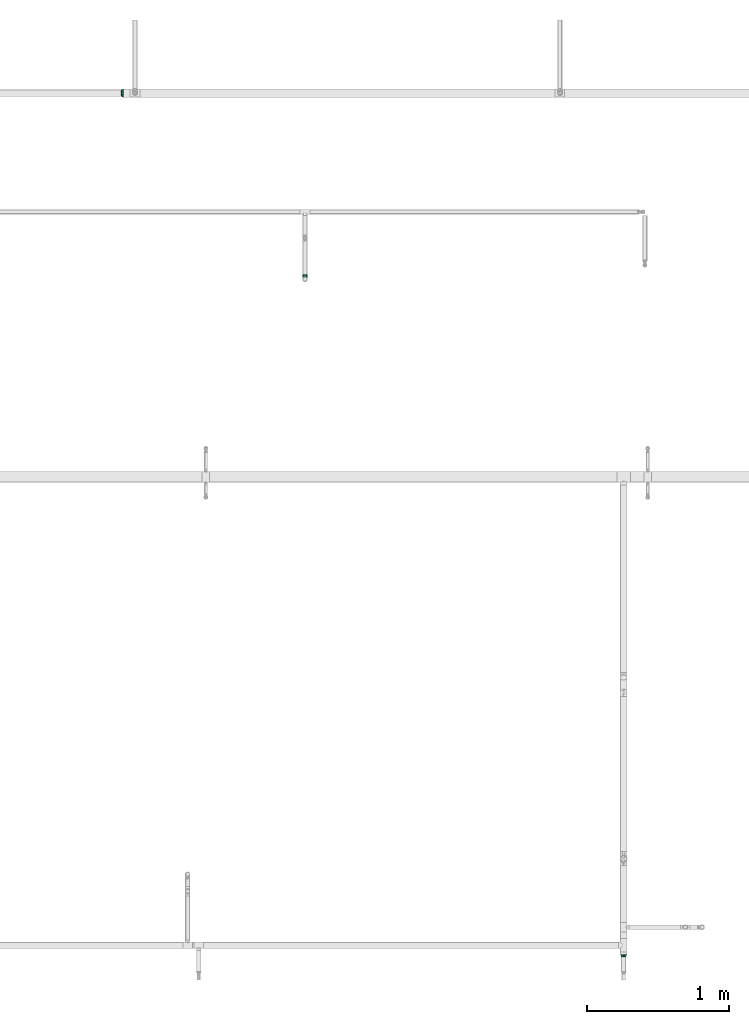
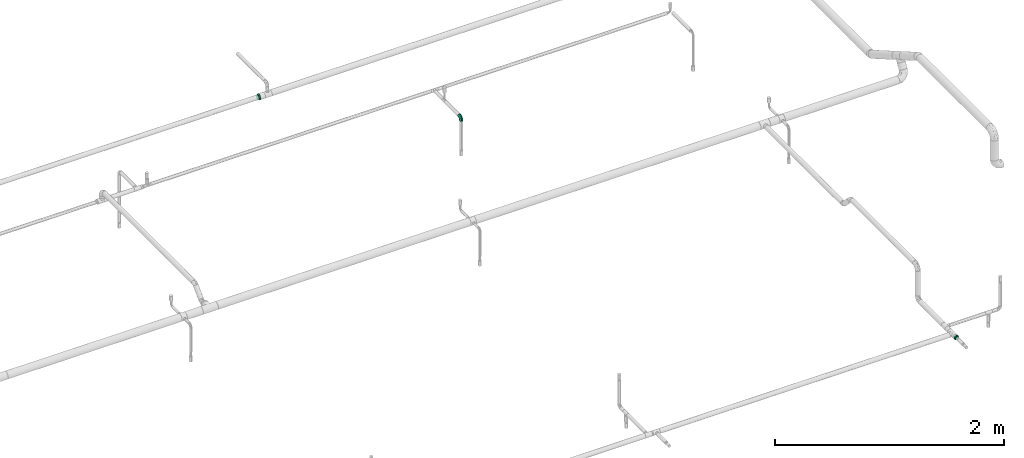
# One storey, part 50 of 51: 3 flow fittings.
"""IFC2X3 building model written with IfcOpenShell, lengths in millimetres."""

from ifc_helpers import new_model, entity, si_unit, converted_unit, derived_unit, direction, frame, origin_with_axes, place, context, subcontext, project, spatial, open_shell, surface_model, source, transform, mapped, type_object, element, save


model = new_model("IFC2X3")

# Units and contexts
model_context = context("Model", 3, precision=0.01, world=frame((0.0, 4.29681676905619e-09, 0.0)), true_north=direction((4.01073788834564e-13, 1.0)))
plan_context = context("Plan", 3, precision=0.01, world=frame((0.0, 4.29681676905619e-09, 0.0)), true_north=direction((4.01073788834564e-13, 1.0)))
body_context = subcontext(model_context, "Body", "Model", "MODEL_VIEW")
ifc_project = project(units=[converted_unit("PLANEANGLEUNIT", "DEGREE", entity("IfcPositiveLengthMeasure", 0.0174532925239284), si_unit("PLANEANGLEUNIT", "RADIAN"), dimensions=[0, 0, 0, 0, 0, 0, 0]), si_unit("AREAUNIT", "SQUARE_METRE"), si_unit("LENGTHUNIT", "METRE", prefix="MILLI"), si_unit("MASSUNIT", "GRAM", prefix="KILO"), si_unit("POWERUNIT", "WATT"), si_unit("PRESSUREUNIT", "PASCAL"), si_unit("FORCEUNIT", "NEWTON", prefix="KILO"), si_unit("ELECTRICVOLTAGEUNIT", "VOLT"), si_unit("ELECTRICCURRENTUNIT", "AMPERE"), si_unit("THERMODYNAMICTEMPERATUREUNIT", "DEGREE_CELSIUS"), si_unit("TIMEUNIT", "SECOND"), si_unit("VOLUMEUNIT", "CUBIC_METRE"), derived_unit("LINEARVELOCITYUNIT", [(si_unit("LENGTHUNIT", "METRE"), 1), (si_unit("TIMEUNIT", "SECOND"), -1)]), derived_unit("VOLUMETRICFLOWRATEUNIT", [(si_unit("VOLUMEUNIT", "CUBIC_METRE"), 1), (si_unit("TIMEUNIT", "SECOND"), -1)]), derived_unit("THERMALTRANSMITTANCEUNIT", [(si_unit("POWERUNIT", "WATT"), 1), (si_unit("THERMODYNAMICTEMPERATUREUNIT", "KELVIN"), -1), (si_unit("AREAUNIT", "SQUARE_METRE"), -1)]), derived_unit("SOUNDPRESSUREUNIT", [(si_unit("PRESSUREUNIT", "PASCAL"), 1)])], contexts=[model_context, plan_context])

# Site, building, storey
site_placement = place(None, frame((0.0, -4.29681676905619e-09, 0.0), z_axis=(0.0, 0.0, 1.0), x_axis=(1.0, 0.0, 0.0)))
site = spatial("IfcSite", under=ifc_project, at=site_placement, Name="ENGM", CompositionType="ELEMENT")
building_placement = place(site_placement, frame((0.0, 4.29681676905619e-09, 0.0), z_axis=(0.0, 0.0, 1.0), x_axis=(1.0, 0.0, 0.0)))
building = spatial("IfcBuilding", under=site, at=building_placement, Name="TH", CompositionType="ELEMENT")
storey_placement = place(building_placement, frame((0.0, 0.0, 210200.0), z_axis=(0.0, 0.0, 1.0), x_axis=(1.0, 0.0, 0.0)))
storey = spatial("IfcBuildingStorey", under=building, at=storey_placement, Name="Nivå F - 0,7 m", CompositionType="ELEMENT", Elevation=210200.0)

# Flow fittings
pipe_fitting_type_1 = type_object("IfcPipeFittingType", Name="magi_pipe_fe_reducer_centric_short_NOR", PredefinedType="TRANSITION")
shared_shape_1 = source(origin_with_axes(), body_context, "Body", "SurfaceModel", [
    surface_model("IfcShellBasedSurfaceModel", [(-2.0, 0.0, 24.2), (-2.0, 6.26342, 23.37541), (-2.0, 12.1, 20.95781), (-2.0, 17.11198, 17.11198), (-2.0, 24.2, 0.0), (-2.0, 20.95781, 12.1), (-2.0, -23.37541, 6.26342), (-2.0, -17.11198, -17.11198), (-2.0, -6.26342, 23.37541), (-2.0, -17.11198, 17.11198), (-2.0, -12.1, 20.95781), (-2.0, -20.95781, 12.1), (-2.0, -24.2, 0.0), (-2.0, 23.37541, 6.26342), (-2.0, 23.37541, -6.26342), (-2.0, 6.26342, -23.37541), (-2.0, 17.11198, -17.11198), (-2.0, 20.95781, -12.1), (-2.0, 12.1, -20.95781), (-2.0, -23.37541, -6.26342), (-2.0, -20.95781, -12.1), (-2.0, -6.26342, -23.37541), (-2.0, -12.1, -20.95781), (-2.0, 0.0, -24.2), (0.0, 24.2, 0.0), (0.0, 6.26342, -23.37541), (0.0, 12.1, -20.95781), (0.0, 23.37541, -6.26342), (0.0, 17.11198, -17.11198), (0.0, 20.95781, -12.1), (0.0, -24.2, 0.0), (0.0, -12.1, -20.95781), (0.0, -6.26342, -23.37541), (0.0, 0.0, -24.2), (0.0, -17.11198, -17.11198), (0.0, -23.37541, -6.26342), (0.0, -20.95781, -12.1), (0.0, 20.95781, 12.1), (0.0, 17.11198, 17.11198), (0.0, 12.1, 20.95781), (0.0, 6.26342, 23.37541), (0.0, 0.0, 24.2), (0.0, -23.37541, 6.26342), (0.0, -17.11198, 17.11198), (0.0, -20.95781, 12.1), (0.0, -6.26342, 23.37541), (0.0, -12.1, 20.95781), (0.0, 23.37541, 6.26342), (12.0, -30.2, 0.0), (12.0, -9.33231, 28.72191), (12.0, -24.43231, 17.75111), (12.0, 30.2, 0.0), (12.0, 24.43231, 17.75111), (12.0, 24.43231, -17.75111), (12.0, -24.43231, -17.75111), (0.0, -7.47821, 23.01557), (0.0, -19.57821, -14.2244), (0.0, -19.57821, 14.2244), (0.0, 7.47821, 23.01557), (0.0, 19.57821, 14.2244), (14.0, 15.1, -26.15397), (14.0, 15.1, 26.15397), (14.0, 7.81634, -29.17096), (14.0, 30.2, 0.0), (14.0, 21.35462, -21.35462), (14.0, 26.15397, -15.1), (14.0, 29.17096, -7.81634), (14.0, -15.1, -26.15397), (14.0, 0.0, -30.2), (14.0, -7.81634, -29.17096), (14.0, -21.35462, -21.35462), (14.0, -29.17096, -7.81634), (14.0, -26.15397, -15.1), (14.0, -29.17096, 7.81634), (14.0, 21.35462, 21.35462), (14.0, 29.17096, 7.81634), (14.0, 26.15397, 15.1), (14.0, 7.81634, 29.17096), (14.0, 0.0, 30.2), (14.0, -21.35462, 21.35462), (14.0, -7.81634, 29.17096), (14.0, -26.15397, 15.1), (14.0, -30.2, 0.0), (14.0, -15.1, 26.15397), (12.0, 0.0, 30.2), (12.0, 7.81634, 29.17096), (12.0, 15.1, 26.15397), (12.0, -29.17096, 7.81634), (12.0, 21.35462, 21.35462), (12.0, 26.15397, 15.1), (12.0, 29.17096, 7.81634), (12.0, 29.17096, -7.81634), (12.0, -7.81634, 29.17096), (12.0, -21.35462, 21.35462), (12.0, -15.1, 26.15397), (12.0, -26.15397, 15.1), (12.0, -29.17096, -7.81634), (12.0, 26.15397, -15.1), (12.0, 7.81634, -29.17096), (12.0, 21.35462, -21.35462), (12.0, 15.1, -26.15397), (12.0, -15.1, -26.15397), (12.0, -21.35462, -21.35462), (12.0, -26.15397, -15.1), (12.0, 0.0, -30.2), (12.0, -7.81634, -29.17096), (12.0, 9.33231, 28.72191), (12.0, -9.33231, -28.72191), (12.0, 9.33231, -28.72191), (0.0, 19.57821, -14.2244), (0.0, 7.47821, -23.01557), (0.0, -7.47821, -23.01557), (12.0, -27.31616, -8.87556), (0.0, -21.8891, -7.1122), (0.0, -13.52821, -18.61999), (12.0, -16.88231, -23.23651), (12.0, 0.0, -28.72191), (0.0, 0.0, -23.01557), (12.0, 27.31616, -8.87556), (12.0, 16.88231, -23.23651), (0.0, 13.52821, -18.61999), (0.0, 22.02177, -6.7039), (12.0, 27.31616, 8.87556), (0.0, 21.8891, 7.1122), (0.0, 13.52821, 18.61999), (12.0, 16.88231, 23.23651), (12.0, 0.0, 28.72191), (0.0, 0.0, 23.01557), (12.0, -27.31616, 8.87556), (12.0, -16.88231, 23.23651), (0.0, -13.52821, 18.61999), (0.0, -22.02177, 6.7039)], [open_shell([[[0, 1, 2]], [[0, 2, 3]], [[4, 3, 5]], [[6, 0, 7]], [[0, 3, 7]], [[8, 9, 10]], [[8, 0, 9]], [[9, 6, 11]], [[0, 6, 9]], [[6, 7, 12]], [[4, 5, 13]], [[3, 14, 15]], [[16, 14, 17]], [[18, 15, 14]], [[18, 14, 16]], [[15, 7, 3]], [[19, 7, 20]], [[12, 7, 19]], [[15, 21, 22]], [[22, 7, 15]], [[21, 15, 23]], [[14, 3, 4]], [[24, 25, 26]], [[27, 26, 28]], [[27, 24, 26]], [[27, 28, 29]], [[25, 30, 31]], [[25, 32, 33]], [[25, 31, 32]], [[34, 35, 36]], [[34, 31, 30]], [[34, 30, 35]], [[25, 24, 37]], [[37, 38, 25]], [[25, 38, 30]], [[39, 40, 41]], [[39, 41, 38]], [[30, 38, 41]], [[42, 43, 44]], [[45, 42, 30]], [[43, 45, 46]], [[45, 43, 42]], [[30, 41, 45]], [[24, 47, 37]], [[19, 35, 12]], [[20, 36, 19]], [[31, 7, 22]], [[20, 7, 34]], [[32, 22, 21]], [[19, 36, 35]], [[35, 30, 12]], [[32, 31, 22]], [[34, 7, 31]], [[34, 36, 20]], [[33, 32, 21]], [[21, 23, 33]], [[15, 25, 23]], [[18, 26, 15]], [[29, 16, 17]], [[18, 16, 28]], [[27, 17, 14]], [[18, 28, 26]], [[26, 25, 15]], [[24, 27, 14]], [[29, 17, 27]], [[29, 28, 16]], [[4, 24, 14]], [[23, 25, 33]], [[13, 47, 4]], [[5, 37, 13]], [[39, 3, 2]], [[5, 3, 38]], [[40, 2, 1]], [[13, 37, 47]], [[47, 24, 4]], [[40, 39, 2]], [[38, 3, 39]], [[38, 37, 5]], [[41, 40, 1]], [[1, 0, 41]], [[8, 45, 0]], [[10, 46, 8]], [[44, 9, 11]], [[10, 9, 43]], [[42, 11, 6]], [[10, 43, 46]], [[46, 45, 8]], [[30, 42, 6]], [[44, 11, 42]], [[44, 43, 9]], [[12, 30, 6]], [[0, 45, 41]], [[48, 49, 50]], [[51, 52, 53]], [[48, 54, 53]], [[55, 56, 57]], [[24, 58, 59]], [[60, 61, 62]], [[63, 60, 64]], [[65, 66, 63]], [[65, 63, 64]], [[67, 62, 61]], [[68, 67, 69]], [[68, 62, 67]], [[70, 71, 72]], [[71, 70, 67]], [[67, 73, 71]], [[63, 74, 60]], [[75, 76, 74]], [[74, 61, 60]], [[61, 77, 78]], [[67, 61, 79]], [[80, 61, 78]], [[73, 79, 81]], [[82, 71, 73]], [[79, 80, 83]], [[73, 67, 79]], [[80, 79, 61]], [[75, 74, 63]], [[84, 85, 86]], [[87, 84, 86]], [[88, 89, 90]], [[86, 88, 87]], [[88, 91, 87]], [[92, 93, 94]], [[92, 84, 93]], [[93, 87, 95]], [[84, 87, 93]], [[87, 96, 48]], [[51, 88, 90]], [[91, 97, 87]], [[97, 98, 87]], [[99, 100, 98]], [[99, 98, 97]], [[98, 101, 87]], [[96, 102, 103]], [[102, 96, 101]], [[101, 104, 105]], [[96, 87, 101]], [[98, 104, 101]], [[91, 88, 51]], [[96, 71, 48]], [[103, 72, 96]], [[67, 102, 101]], [[103, 102, 70]], [[69, 101, 105]], [[96, 72, 71]], [[71, 82, 48]], [[69, 67, 101]], [[70, 102, 67]], [[70, 72, 103]], [[68, 69, 105]], [[105, 104, 68]], [[98, 62, 104]], [[100, 60, 98]], [[65, 99, 97]], [[100, 99, 64]], [[66, 97, 91]], [[100, 64, 60]], [[60, 62, 98]], [[63, 66, 91]], [[65, 97, 66]], [[65, 64, 99]], [[51, 63, 91]], [[104, 62, 68]], [[90, 75, 51]], [[89, 76, 90]], [[61, 88, 86]], [[89, 88, 74]], [[77, 86, 85]], [[90, 76, 75]], [[75, 63, 51]], [[77, 61, 86]], [[74, 88, 61]], [[74, 76, 89]], [[78, 77, 85]], [[85, 84, 78]], [[92, 80, 84]], [[94, 83, 92]], [[81, 93, 95]], [[94, 93, 79]], [[73, 95, 87]], [[94, 79, 83]], [[83, 80, 92]], [[82, 73, 87]], [[81, 95, 73]], [[81, 79, 93]], [[48, 82, 87]], [[84, 80, 78]], [[48, 106, 49]], [[106, 53, 52]], [[53, 107, 108]], [[107, 53, 54]], [[48, 53, 106]], [[55, 58, 24]], [[57, 56, 30]], [[24, 109, 110]], [[56, 110, 111]], [[110, 56, 24]], [[24, 56, 55]], [[112, 30, 113]], [[113, 56, 54]], [[107, 114, 111]], [[30, 112, 48]], [[113, 54, 112]], [[115, 56, 114]], [[116, 107, 111]], [[117, 108, 116]], [[108, 117, 110]], [[56, 115, 54]], [[107, 115, 114]], [[109, 118, 53]], [[110, 119, 108]], [[120, 53, 119]], [[121, 51, 118]], [[119, 110, 120]], [[121, 24, 51]], [[120, 109, 53]], [[116, 111, 117]], [[118, 109, 121]], [[122, 24, 123]], [[123, 59, 52]], [[106, 124, 58]], [[24, 122, 51]], [[123, 52, 122]], [[125, 59, 124]], [[126, 106, 58]], [[127, 49, 126]], [[49, 127, 55]], [[59, 125, 52]], [[106, 125, 124]], [[57, 128, 50]], [[55, 129, 49]], [[130, 50, 129]], [[131, 48, 128]], [[129, 55, 130]], [[131, 30, 48]], [[130, 57, 50]], [[126, 58, 127]], [[128, 57, 131]]])]),
])
flow_fitting_1_placement = place(storey_placement, frame((905404.14183, 487040.10129, 2819.99995999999), z_axis=(0.0, 0.0, 1.0), x_axis=(1.0, 0.0, 0.0)))
element("IfcFlowFitting", 1, at=flow_fitting_1_placement, inside=storey, type_object=pipe_fitting_type_1, Name="magi_pipe_fe_reducer_centric_short_NOR", context=body_context, shape_type="MappedRepresentation", body=[
    mapped(shared_shape_1, transform((0.0, 0.0, 0.0), scale=1.0)),
])
shared_shape_2 = source(origin_with_axes(), body_context, "Body", "SurfaceModel", [
    surface_model("IfcShellBasedSurfaceModel", [(-2.0, 11.9501, 11.9501), (-2.0, 0.0, 16.9), (-2.0, 4.37404, 16.32415), (-2.0, 8.45, 14.63583), (-2.0, 14.63583, 8.45), (-2.0, 16.32415, 4.37404), (-2.0, -16.32415, 4.37404), (-2.0, -8.45, 14.63583), (-2.0, -14.63583, 8.45), (-2.0, -11.9501, 11.9501), (-2.0, -4.37404, 16.32415), (-2.0, -16.32415, -4.37404), (-2.0, -16.9, 0.0), (-2.0, -8.45, -14.63583), (-2.0, 16.32415, -4.37404), (-2.0, 11.9501, -11.9501), (-2.0, 14.63583, -8.45), (-2.0, 8.45, -14.63583), (-2.0, 4.37404, -16.32415), (-2.0, 0.0, -16.9), (-2.0, -11.9501, -11.9501), (-2.0, -14.63583, -8.45), (-2.0, -4.37404, -16.32415), (-2.0, 16.9, 0.0), (0.0, 4.37404, -16.32415), (0.0, 8.45, -14.63583), (0.0, 11.9501, -11.9501), (0.0, 0.0, -16.9), (0.0, 16.32415, -4.37404), (0.0, 16.32415, 4.37404), (0.0, 14.63583, -8.45), (0.0, -8.45, -14.63583), (0.0, -4.37404, -16.32415), (0.0, -11.9501, -11.9501), (0.0, -16.32415, -4.37404), (0.0, -14.63583, -8.45), (0.0, -16.32415, 4.37404), (0.0, 16.9, 0.0), (0.0, 14.63583, 8.45), (0.0, 11.9501, 11.9501), (0.0, 4.37404, 16.32415), (0.0, 8.45, 14.63583), (0.0, 0.0, 16.9), (0.0, -14.63583, 8.45), (0.0, -16.9, 0.0), (0.0, -8.45, 14.63583), (0.0, -11.9501, 11.9501), (0.0, -4.37404, 16.32415), (16.6, 12.1, -20.95781), (16.6, -24.2, 0.0), (16.6, 6.26342, -23.37541), (16.6, 23.37541, -6.26342), (16.6, 17.11198, -17.11198), (16.6, 20.95781, -12.1), (16.6, -17.11198, -17.11198), (16.6, -6.26342, -23.37541), (16.6, -12.1, -20.95781), (16.6, 0.0, -24.2), (16.6, -23.37541, -6.26342), (16.6, -20.95781, -12.1), (16.6, 24.2, 0.0), (16.6, 23.37541, 6.26342), (16.6, 20.95781, 12.1), (16.6, 17.11198, 17.11198), (16.6, 12.1, 20.95781), (16.6, 6.26342, 23.37541), (16.6, 0.0, 24.2), (16.6, -23.37541, 6.26342), (16.6, -17.11198, 17.11198), (16.6, -20.95781, 12.1), (16.6, -6.26342, 23.37541), (16.6, -12.1, 20.95781), (14.6, 0.0, 24.2), (14.6, 6.26342, 23.37541), (14.6, 12.1, 20.95781), (14.6, 17.11198, 17.11198), (14.6, 20.95781, 12.1), (14.6, 23.37541, 6.26342), (14.6, -23.37541, 6.26342), (14.6, -17.11198, -17.11198), (14.6, -6.26342, 23.37541), (14.6, -17.11198, 17.11198), (14.6, -12.1, 20.95781), (14.6, -20.95781, 12.1), (14.6, -24.2, 0.0), (14.6, 24.2, 0.0), (14.6, 17.11198, -17.11198), (14.6, 23.37541, -6.26342), (14.6, 20.95781, -12.1), (14.6, 12.1, -20.95781), (14.6, 6.26342, -23.37541), (14.6, -23.37541, -6.26342), (14.6, -20.95781, -12.1), (14.6, -6.26342, -23.37541), (14.6, -12.1, -20.95781), (14.6, 0.0, -24.2), (14.6, 7.47821, 23.01557), (14.6, -7.47821, 23.01557), (14.6, 19.57821, -14.2244), (14.6, 19.57821, 14.2244), (14.6, -19.57821, 14.2244), (14.6, -19.57821, -14.2244), (14.6, 7.47821, -23.01557), (14.6, -7.47821, -23.01557), (0.0, 13.18758, -8.96258), (0.0, -5.97505, -14.42505), (14.6, -13.52821, -18.61999), (0.0, 14.42505, -5.97505), (14.6, 21.8891, -7.1122), (14.6, 20.73366, -10.6683), (0.0, -8.96258, -13.18758), (0.0, -14.42505, -5.97505), (0.0, -13.18758, -8.96258), (14.6, 0.0, -23.01557), (0.0, -2.98753, -15.66253), (14.6, 13.52821, -18.61999), (0.0, -15.66253, -2.98753), (14.6, -21.8891, -7.1122), (0.0, 2.98753, -15.66253), (0.0, 15.66253, -2.98753), (0.0, 5.97505, -14.42505), (0.0, 8.96258, -13.18758), (0.0, -13.18758, 8.96258), (0.0, 5.97505, 14.42505), (14.6, 13.52821, 18.61999), (0.0, -14.42505, 5.97505), (14.6, -21.8891, 7.1122), (14.6, -20.73366, 10.6683), (0.0, 8.96258, 13.18758), (0.0, 14.42505, 5.97505), (0.0, 13.18758, 8.96258), (14.6, 0.0, 23.01557), (0.0, 2.98753, 15.66253), (14.6, -13.52821, 18.61999), (0.0, 15.66253, 2.98753), (14.6, 21.8891, 7.1122), (0.0, -2.98753, 15.66253), (0.0, -15.66253, 2.98753), (0.0, -5.97505, 14.42505), (0.0, -8.96258, 13.18758)], [open_shell([[[0, 1, 2]], [[0, 2, 3]], [[0, 4, 5]], [[0, 5, 1]], [[1, 5, 6]], [[7, 8, 9]], [[7, 10, 1]], [[8, 7, 1]], [[1, 6, 8]], [[6, 11, 12]], [[6, 5, 13]], [[5, 14, 15]], [[15, 14, 16]], [[15, 17, 18]], [[13, 5, 15]], [[19, 15, 18]], [[11, 20, 21]], [[20, 11, 13]], [[13, 19, 22]], [[11, 6, 13]], [[15, 19, 13]], [[5, 23, 14]], [[24, 25, 26]], [[27, 24, 26]], [[26, 28, 29]], [[28, 26, 30]], [[26, 29, 31]], [[27, 31, 32]], [[27, 26, 31]], [[33, 34, 35]], [[34, 33, 31]], [[31, 36, 34]], [[29, 28, 37]], [[29, 38, 39]], [[29, 39, 40]], [[40, 36, 31]], [[40, 39, 41]], [[36, 40, 42]], [[42, 43, 36]], [[44, 34, 36]], [[43, 45, 46]], [[43, 42, 45]], [[45, 42, 47]], [[31, 29, 40]], [[11, 34, 12]], [[21, 35, 11]], [[31, 20, 13]], [[21, 20, 33]], [[32, 13, 22]], [[11, 35, 34]], [[34, 44, 12]], [[32, 31, 13]], [[33, 20, 31]], [[33, 35, 21]], [[27, 32, 22]], [[22, 19, 27]], [[18, 24, 19]], [[17, 25, 18]], [[30, 15, 16]], [[17, 15, 26]], [[28, 16, 14]], [[17, 26, 25]], [[25, 24, 18]], [[37, 28, 14]], [[30, 16, 28]], [[30, 26, 15]], [[23, 37, 14]], [[19, 24, 27]], [[5, 29, 23]], [[4, 38, 5]], [[41, 0, 3]], [[4, 0, 39]], [[40, 3, 2]], [[5, 38, 29]], [[29, 37, 23]], [[40, 41, 3]], [[39, 0, 41]], [[39, 38, 4]], [[42, 40, 2]], [[2, 1, 42]], [[10, 47, 1]], [[7, 45, 10]], [[43, 9, 8]], [[7, 9, 46]], [[36, 8, 6]], [[7, 46, 45]], [[45, 47, 10]], [[44, 36, 6]], [[43, 8, 36]], [[43, 46, 9]], [[12, 44, 6]], [[1, 47, 42]], [[48, 49, 50]], [[51, 48, 52]], [[48, 51, 49]], [[51, 52, 53]], [[49, 54, 50]], [[55, 54, 56]], [[55, 57, 50]], [[54, 58, 59]], [[55, 50, 54]], [[54, 49, 58]], [[60, 49, 51]], [[61, 62, 63]], [[60, 63, 49]], [[64, 65, 66]], [[64, 66, 63]], [[49, 63, 66]], [[67, 68, 69]], [[70, 67, 49]], [[68, 70, 71]], [[70, 68, 67]], [[49, 66, 70]], [[63, 60, 61]], [[72, 73, 74]], [[72, 74, 75]], [[75, 76, 77]], [[72, 75, 78]], [[75, 79, 78]], [[80, 81, 82]], [[80, 72, 81]], [[81, 78, 83]], [[72, 78, 81]], [[78, 79, 84]], [[75, 77, 85]], [[86, 85, 87]], [[86, 87, 88]], [[89, 90, 85]], [[89, 85, 86]], [[90, 79, 75]], [[91, 79, 92]], [[84, 79, 91]], [[79, 93, 94]], [[79, 90, 93]], [[95, 93, 90]], [[75, 85, 90]], [[91, 58, 84]], [[92, 59, 91]], [[56, 79, 94]], [[92, 79, 54]], [[55, 94, 93]], [[91, 59, 58]], [[58, 49, 84]], [[55, 56, 94]], [[54, 79, 56]], [[54, 59, 92]], [[57, 55, 93]], [[93, 95, 57]], [[90, 50, 95]], [[89, 48, 90]], [[53, 86, 88]], [[89, 86, 52]], [[51, 88, 87]], [[89, 52, 48]], [[48, 50, 90]], [[60, 51, 87]], [[53, 88, 51]], [[53, 52, 86]], [[85, 60, 87]], [[95, 50, 57]], [[77, 61, 85]], [[76, 62, 77]], [[64, 75, 74]], [[76, 75, 63]], [[65, 74, 73]], [[77, 62, 61]], [[61, 60, 85]], [[65, 64, 74]], [[63, 75, 64]], [[63, 62, 76]], [[66, 65, 73]], [[73, 72, 66]], [[80, 70, 72]], [[82, 71, 80]], [[69, 81, 83]], [[82, 81, 68]], [[67, 83, 78]], [[82, 68, 71]], [[71, 70, 80]], [[49, 67, 78]], [[69, 83, 67]], [[69, 68, 81]], [[84, 49, 78]], [[72, 70, 66]], [[96, 97, 84]], [[96, 98, 99]], [[85, 99, 98]], [[100, 84, 97]], [[84, 101, 98]], [[101, 102, 98]], [[102, 101, 103]], [[84, 98, 96]], [[46, 42, 33]], [[33, 44, 46]], [[37, 42, 39]], [[37, 26, 33]], [[27, 33, 26]], [[37, 33, 42]], [[98, 26, 104]], [[105, 103, 106]], [[107, 108, 109]], [[106, 110, 105]], [[101, 111, 112]], [[106, 101, 33]], [[113, 114, 27]], [[112, 33, 101]], [[26, 98, 115]], [[84, 116, 117]], [[118, 113, 27]], [[85, 119, 37]], [[111, 101, 117]], [[115, 120, 121]], [[119, 85, 108]], [[113, 118, 102]], [[103, 105, 114]], [[103, 114, 113]], [[118, 120, 102]], [[116, 84, 44]], [[107, 119, 108]], [[98, 104, 109]], [[104, 107, 109]], [[106, 33, 110]], [[120, 115, 102]], [[121, 26, 115]], [[116, 111, 117]], [[100, 46, 122]], [[123, 96, 124]], [[125, 126, 127]], [[124, 128, 123]], [[99, 129, 130]], [[124, 99, 39]], [[131, 132, 42]], [[130, 39, 99]], [[46, 100, 133]], [[85, 134, 135]], [[136, 131, 42]], [[84, 137, 44]], [[129, 99, 135]], [[133, 138, 139]], [[137, 84, 126]], [[131, 136, 97]], [[96, 123, 132]], [[96, 132, 131]], [[136, 138, 97]], [[134, 85, 37]], [[125, 137, 126]], [[100, 122, 127]], [[122, 125, 127]], [[124, 39, 128]], [[138, 133, 97]], [[139, 46, 133]], [[134, 129, 135]]])]),
])
flow_fitting_2_placement = place(storey_placement, frame((908949.82472, 480943.05237, 2700.0), z_axis=(0.0, 0.0, 1.0), x_axis=(0.0, 1.0, 0.0)))
element("IfcFlowFitting", 2, at=flow_fitting_2_placement, inside=storey, type_object=pipe_fitting_type_1, Name="magi_pipe_fe_reducer_centric_short_NOR", context=body_context, shape_type="MappedRepresentation", body=[
    mapped(shared_shape_2, transform((0.0, 0.0, 0.0), scale=1.0)),
])
pipe_fitting_type_2 = type_object("IfcPipeFittingType", Name="magi_pipe_fe_elbow_short_001", PredefinedType="BEND")
shared_shape_3 = source(origin_with_axes(), body_context, "Body", "SurfaceModel", [
    surface_model("IfcShellBasedSurfaceModel", [(-33.80291, 0.0, -16.9), (-33.80291, -11.9501, -11.9501), (-33.80291, 4.37404, -16.32415), (-33.80291, 8.45, -14.63583), (-33.80291, 16.32415, -4.37404), (-33.80291, 14.63583, -8.45), (-33.80291, 11.9501, -11.9501), (-33.80291, -16.9, 0.0), (-33.80291, -8.45, -14.63583), (-33.80291, -4.37404, -16.32415), (-33.80291, -14.63583, -8.45), (-33.80291, -16.32415, -4.37404), (-33.80291, 16.32415, 4.37404), (-33.80291, 4.37404, 16.32415), (-33.80291, 14.63583, 8.45), (-33.80291, 8.45, 14.63583), (-33.80291, 11.9501, 11.9501), (-33.80291, -16.32415, 4.37404), (-33.80291, -11.9501, 11.9501), (-33.80291, -8.45, 14.63583), (-33.80291, -14.63583, 8.45), (-33.80291, -4.37404, 16.32415), (-33.80291, 0.0, 16.9), (-33.80291, 16.9, 0.0), (-4.37695, 33.80253, -16.32415), (4.37113, 33.80328, -16.32415), (-0.00291, 33.80291, -16.9), (-16.32705, 33.8015, -4.37404), (-8.45291, 33.80218, -14.63583), (-14.63874, 33.80165, -8.45), (-11.95301, 33.80188, -11.9501), (8.44709, 33.80363, 14.63583), (11.9472, 33.80393, -11.9501), (8.44709, 33.80363, -14.63583), (16.32124, 33.80431, -4.37404), (14.63292, 33.80417, -8.45), (16.89709, 33.80436, 0.0), (16.32124, 33.80431, 4.37404), (-16.90291, 33.80145, 0.0), (-16.32705, 33.8015, 4.37404), (-11.95301, 33.80188, 11.9501), (-14.63874, 33.80165, 8.45), (4.37113, 33.80328, 16.32415), (-8.45291, 33.80218, 14.63583), (-0.00291, 33.80291, 16.9), (-4.37695, 33.80253, 16.32415), (14.63292, 33.80417, 8.45), (11.9472, 33.80393, 11.9501), (-24.79696, -13.1295, 9.48718), (-22.19586, -9.75024, 12.59311), (-24.10138, -14.97014, 0.0), (-14.94252, -10.76271, 8.52964), (-22.46394, -14.75054, 5.27072), (14.74861, 22.46521, 5.27072), (11.92407, 13.2431, 4.33241), (13.03904, 14.40097, 0.0), (7.7127, 13.69194, 11.55885), (9.74834, 22.1967, 12.59311), (4.10022, 13.05942, 14.04008), (-24.84296, -6.39067, 15.20478), (-25.8202, -2.23878, 16.61095), (-23.66803, 2.59055, 16.8712), (-26.50691, 14.06514, 11.08158), (-24.21495, 17.66386, 7.7267), (-29.58773, 15.86962, 7.00289), (-6.17545, -7.54452, 0.0), (-13.24208, -11.92521, 4.33241), (-14.39985, -13.04028, 0.0), (-17.81609, 18.87481, 11.97115), (-6.31096, 29.15334, 15.8299), (-2.31837, 25.28248, 16.8585), (-29.24164, 10.23437, 13.77058), (-1.45705, -2.85728, 7.61382), (-0.28413, 0.34994, 10.09431), (-5.74655, -4.04669, 10.41169), (-4.41288, 11.32111, 16.59408), (-8.39925, 3.10047, 15.78101), (-1.72846, 9.1318, 15.53089), (-17.40144, 24.75431, 7.6499), (-26.19532, 20.05136, 0.0), (-28.14792, 17.29665, 4.2585), (-26.05427, 6.62807, 15.96449), (-5.87501, 16.62076, 16.86971), (-12.51985, 12.51877, 16.48944), (-10.06447, 7.38584, 16.81289), (-3.02017, 3.01991, 13.81695), (-13.05907, -4.10135, 14.04008), (-16.82755, -0.15144, 16.38033), (10.76143, 14.94344, 8.52964), (13.12737, 24.79809, 9.48718), (6.38853, 24.84351, 15.20478), (2.23656, 25.82039, 16.61095), (-13.69127, -7.71388, 11.55885), (14.96806, 24.10267, 0.0), (-7.31103, 22.90149, 16.09494), (-10.68183, 26.17592, 14.00804), (-12.78519, 18.27022, 15.06063), (-13.88761, 22.45383, 12.93248), (-18.05169, 15.16557, 14.04434), (-23.11914, 20.08203, 4.0299), (-21.85229, 21.85041, 0.0), (-18.56081, 25.48321, 3.93075), (-13.95372, 26.94897, 11.03293), (-18.5732, 7.2394, 16.59757), (-16.58523, 4.14135, 16.89278), (-17.96841, 11.46776, 15.63156), (-9.84654, 17.54418, 16.18941), (0.14999, 16.82756, 16.38033), (-23.27414, 11.47223, 14.23164), (3.84682, 5.8724, 10.70524), (-8.02402, -7.54432, 7.93235), (1.00185, -2.19457, 4.57221), (5.12914, 3.01088, 5.90337), (5.24362, 1.7602, 2.53224), (8.70327, 7.05356, 3.99516), (-20.05361, 26.1936, 0.0), (8.48062, 8.76748, 7.0966), (-4.55824, -6.72125, 4.90606), (2.04895, -2.04877, 0.0), (7.54399, 6.1761, 0.0), (-26.75646, 2.1369, -16.845), (-14.62228, 24.73899, -11.27748), (-28.45549, -13.45335, -9.81891), (-26.00742, 6.63553, -15.96647), (-23.06983, 20.04599, -4.26205), (-13.80802, -4.26417, -14.17883), (-14.67703, -0.21036, -16.07387), (-6.79087, -0.28186, -13.84734), (-24.53816, 11.08107, -14.13425), (-26.72323, 14.00838, -11.05782), (10.09462, 24.45355, -12.75971), (5.83053, 21.40529, -15.03042), (6.66006, 28.5457, -15.38091), (-20.384, 15.4876, -12.74595), (12.53084, 21.23811, -9.15355), (12.54364, 15.67904, -5.54867), (9.75145, 12.89683, -8.6631), (-15.65401, 19.64286, -13.0134), (-12.03704, 20.66621, -14.67684), (-15.62101, 15.61967, -14.83893), (-25.56845, -15.26197, 0.0), (-24.65731, -15.12934, -5.50949), (13.45091, 28.45665, -9.81891), (15.12722, 24.65861, -5.50949), (-7.35754, -8.31025, -5.65568), (-15.67796, -12.54499, -5.54867), (-24.45268, -10.09673, -12.75971), (0.16494, 0.4154, -9.71697), (-5.70884, -5.32976, -8.89345), (-5.13773, -2.36927, -11.53536), (-21.23703, -12.53266, -9.15355), (0.71037, 7.94073, -14.0937), (0.2091, 14.67705, -16.07387), (3.49149, 14.43032, -14.76374), (-24.9019, -2.13092, -16.59099), (-28.54512, -6.66252, -15.38091), (-18.44641, -7.71618, -13.26981), (2.12877, 24.90208, -16.59099), (-28.6461, 17.44418, -2.89331), (1.70077, -1.28376, -5.09485), (-16.57319, 26.82024, -7.3661), (-17.69295, 27.42754, -3.7641), (-12.89599, -9.75256, -8.6631), (-5.96756, 5.96705, -15.95802), (-20.53976, 20.09358, -8.28997), (-2.1392, 26.75628, -16.845), (-6.90085, 24.58982, -16.02581), (-10.60965, 26.53348, -13.98047), (-21.40479, -5.83237, -15.03042), (2.93062, 5.89867, -11.55936), (6.89268, 12.62132, -11.8222), (5.58008, 5.95688, -8.79474), (-3.99691, 18.61976, -16.89635), (8.30962, 7.35825, -5.65568), (-9.13992, 9.86258, -16.8904), (-10.00138, 16.02291, -16.397), (-16.68664, 9.78103, -16.34214), (-27.02185, 16.61169, -7.12974), (15.25977, 25.56976, 0.0), (-18.6201, 3.9953, -16.89635), (-19.3776, 27.82593, 0.0), (-12.62072, -6.89377, -11.8222), (-18.84909, 19.14095, -10.96554)], [open_shell([[[0, 1, 2]], [[3, 2, 4]], [[3, 4, 5]], [[6, 3, 5]], [[4, 2, 7]], [[8, 1, 9]], [[1, 0, 9]], [[10, 11, 1]], [[7, 1, 11]], [[1, 7, 2]], [[7, 12, 4]], [[13, 12, 7]], [[14, 12, 13]], [[14, 13, 15]], [[16, 14, 15]], [[17, 13, 7]], [[18, 19, 20]], [[17, 20, 19]], [[21, 22, 19]], [[13, 17, 19]], [[19, 22, 13]], [[23, 4, 12]], [[24, 25, 26]], [[27, 24, 28]], [[29, 27, 28]], [[29, 28, 30]], [[24, 31, 32]], [[25, 32, 33]], [[25, 24, 32]], [[32, 34, 35]], [[34, 32, 36]], [[32, 37, 36]], [[24, 27, 38]], [[39, 31, 38]], [[40, 39, 41]], [[42, 39, 43]], [[43, 39, 40]], [[44, 43, 45]], [[46, 31, 47]], [[31, 46, 37]], [[39, 42, 31]], [[37, 32, 31]], [[44, 42, 43]], [[31, 24, 38]], [[18, 48, 49]], [[17, 7, 50]], [[51, 48, 52]], [[53, 54, 55]], [[48, 18, 20]], [[17, 52, 20]], [[56, 57, 58]], [[49, 19, 18]], [[49, 59, 19]], [[22, 60, 61]], [[62, 63, 64]], [[65, 66, 67]], [[57, 47, 31]], [[62, 68, 63]], [[45, 69, 70]], [[15, 71, 16]], [[21, 60, 22]], [[72, 73, 74]], [[75, 76, 77]], [[16, 62, 14]], [[41, 39, 78]], [[79, 23, 80]], [[64, 12, 14]], [[22, 61, 13]], [[13, 81, 15]], [[82, 83, 84]], [[74, 85, 86]], [[59, 86, 87]], [[88, 89, 57]], [[90, 31, 42]], [[46, 53, 37]], [[42, 44, 91]], [[54, 53, 88]], [[46, 89, 53]], [[92, 86, 49]], [[89, 46, 47]], [[19, 59, 21]], [[53, 55, 93]], [[93, 37, 53]], [[66, 52, 67]], [[94, 82, 70]], [[95, 96, 94]], [[97, 98, 96]], [[79, 99, 100]], [[43, 40, 95]], [[101, 100, 99]], [[68, 78, 63]], [[45, 43, 69]], [[23, 12, 80]], [[95, 94, 69]], [[78, 101, 99]], [[40, 102, 95]], [[70, 44, 45]], [[97, 95, 102]], [[17, 50, 52]], [[90, 57, 31]], [[57, 90, 58]], [[81, 13, 61]], [[103, 104, 84]], [[105, 81, 103]], [[40, 41, 102]], [[106, 96, 83]], [[94, 106, 82]], [[91, 70, 107]], [[71, 62, 16]], [[62, 108, 98]], [[86, 59, 49]], [[67, 52, 50]], [[60, 59, 87]], [[92, 49, 51]], [[86, 85, 76]], [[91, 90, 42]], [[36, 37, 93]], [[107, 77, 58]], [[107, 58, 90]], [[58, 85, 109]], [[110, 74, 92]], [[72, 74, 110]], [[66, 51, 52]], [[72, 111, 112]], [[113, 114, 112]], [[56, 88, 57]], [[52, 48, 20]], [[49, 48, 51]], [[57, 89, 47]], [[53, 89, 88]], [[103, 81, 61]], [[71, 81, 108]], [[12, 64, 80]], [[63, 78, 99]], [[38, 115, 101]], [[101, 115, 100]], [[41, 78, 102]], [[68, 102, 78]], [[97, 96, 95]], [[105, 98, 108]], [[103, 84, 83]], [[107, 70, 82]], [[76, 84, 87]], [[82, 84, 75]], [[70, 91, 44]], [[90, 91, 107]], [[59, 60, 21]], [[61, 60, 87]], [[73, 85, 74]], [[109, 112, 116]], [[103, 61, 104]], [[105, 103, 83]], [[96, 105, 83]], [[81, 105, 108]], [[96, 98, 105]], [[62, 98, 68]], [[61, 87, 104]], [[87, 84, 104]], [[86, 76, 87]], [[77, 76, 85]], [[58, 77, 85]], [[75, 77, 107]], [[82, 75, 107]], [[76, 75, 84]], [[81, 71, 15]], [[62, 71, 108]], [[95, 69, 43]], [[70, 69, 94]], [[62, 64, 14]], [[80, 63, 99]], [[63, 80, 64]], [[80, 99, 79]], [[66, 65, 117]], [[110, 66, 117]], [[112, 114, 116]], [[118, 117, 65]], [[110, 92, 51]], [[112, 111, 113]], [[119, 55, 54]], [[74, 86, 92]], [[58, 109, 56]], [[116, 56, 109]], [[66, 110, 51]], [[72, 110, 117]], [[111, 72, 117]], [[73, 112, 109]], [[117, 118, 111]], [[113, 111, 118]], [[118, 119, 113]], [[114, 119, 54]], [[119, 114, 113]], [[116, 54, 88]], [[54, 116, 114]], [[116, 88, 56]], [[112, 73, 72]], [[85, 73, 109]], [[78, 39, 101]], [[38, 101, 39]], [[102, 68, 97]], [[97, 68, 98]], [[82, 106, 83]], [[94, 96, 106]], [[2, 120, 0]], [[29, 30, 121]], [[1, 122, 10]], [[3, 123, 2]], [[100, 124, 79]], [[125, 126, 127]], [[128, 6, 129]], [[130, 131, 132]], [[128, 129, 133]], [[134, 135, 136]], [[137, 138, 139]], [[128, 3, 6]], [[67, 140, 141]], [[134, 142, 143]], [[141, 11, 10]], [[144, 65, 145]], [[146, 1, 8]], [[147, 148, 149]], [[145, 141, 150]], [[151, 152, 153]], [[154, 9, 0]], [[8, 155, 146]], [[150, 146, 156]], [[155, 8, 9]], [[143, 135, 134]], [[25, 157, 26]], [[23, 79, 158]], [[148, 159, 144]], [[160, 161, 27]], [[145, 162, 144]], [[163, 152, 151]], [[27, 29, 160]], [[121, 164, 160]], [[33, 32, 130]], [[26, 165, 24]], [[24, 165, 166]], [[142, 32, 35]], [[30, 28, 167]], [[124, 161, 164]], [[157, 25, 132]], [[155, 154, 168]], [[123, 3, 128]], [[169, 170, 171]], [[172, 157, 152]], [[24, 166, 28]], [[132, 25, 33]], [[142, 130, 32]], [[168, 154, 126]], [[136, 135, 173]], [[133, 137, 139]], [[6, 5, 129]], [[170, 131, 130]], [[35, 34, 143]], [[172, 174, 175]], [[176, 123, 128]], [[158, 177, 4]], [[135, 55, 119]], [[167, 28, 166]], [[175, 166, 172]], [[137, 167, 138]], [[122, 141, 10]], [[140, 7, 11]], [[34, 36, 178]], [[170, 130, 134]], [[152, 157, 131]], [[165, 157, 172]], [[153, 170, 151]], [[152, 163, 174]], [[168, 125, 156]], [[122, 146, 150]], [[120, 154, 0]], [[179, 174, 126]], [[179, 126, 154]], [[126, 163, 127]], [[162, 145, 150]], [[140, 11, 141]], [[34, 178, 143]], [[55, 143, 178]], [[177, 129, 5]], [[128, 133, 139]], [[176, 128, 139]], [[120, 123, 179]], [[121, 160, 29]], [[161, 100, 180]], [[166, 175, 138]], [[121, 30, 167]], [[161, 38, 27]], [[79, 124, 158]], [[124, 164, 177]], [[161, 124, 100]], [[136, 171, 170]], [[127, 163, 151]], [[147, 171, 159]], [[148, 144, 162]], [[127, 151, 169]], [[127, 181, 125]], [[129, 177, 164]], [[5, 4, 177]], [[159, 65, 144]], [[67, 141, 145]], [[143, 55, 135]], [[135, 119, 173]], [[123, 120, 2]], [[154, 120, 179]], [[157, 165, 26]], [[166, 165, 172]], [[172, 152, 174]], [[176, 139, 175]], [[126, 174, 163]], [[176, 174, 179]], [[174, 176, 175]], [[123, 176, 179]], [[150, 181, 162]], [[127, 149, 181]], [[181, 148, 162]], [[159, 148, 147]], [[171, 136, 173]], [[170, 134, 136]], [[159, 171, 173]], [[171, 147, 169]], [[169, 147, 149]], [[151, 170, 169]], [[164, 182, 129]], [[182, 121, 137]], [[181, 149, 148]], [[169, 149, 127]], [[182, 137, 133]], [[167, 137, 121]], [[166, 138, 167]], [[175, 139, 138]], [[129, 182, 133]], [[121, 182, 164]], [[161, 160, 164]], [[38, 161, 180]], [[177, 158, 124]], [[23, 158, 4]], [[130, 132, 33]], [[157, 132, 131]], [[143, 142, 35]], [[130, 142, 134]], [[154, 155, 9]], [[146, 155, 168]], [[146, 122, 1]], [[141, 122, 150]], [[152, 131, 153]], [[159, 119, 118]], [[67, 145, 65]], [[170, 153, 131]], [[119, 159, 173]], [[159, 118, 65]], [[156, 125, 181]], [[126, 125, 168]], [[150, 156, 181]], [[168, 156, 146]]])]),
])
flow_fitting_3_placement = place(storey_placement, frame((906700.0, 485725.40642, 2949.60000000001), z_axis=(-1.0, 0.0, 0.0), x_axis=(0.0, 0.0, 1.0)))
element("IfcFlowFitting", 3, at=flow_fitting_3_placement, inside=storey, type_object=pipe_fitting_type_2, Name="magi_pipe_fe_elbow_short_001", context=body_context, shape_type="MappedRepresentation", body=[
    mapped(shared_shape_3, transform((0.0, 0.0, 0.0), scale=1.0)),
])

save(model, "model.ifc")
